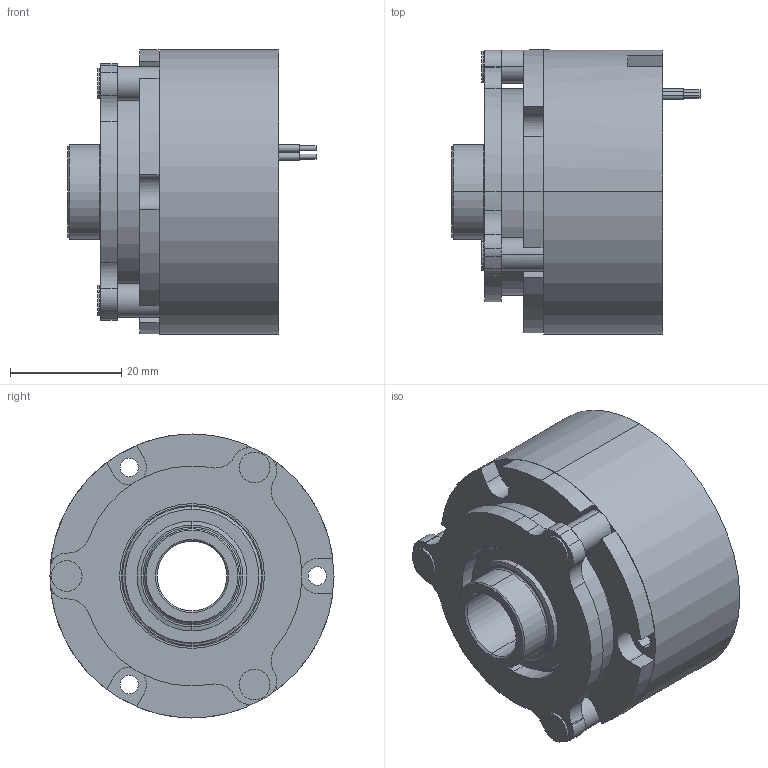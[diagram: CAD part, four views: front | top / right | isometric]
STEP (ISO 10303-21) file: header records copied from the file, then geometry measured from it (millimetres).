
FILE_DESCRIPTION (( 'STEP AP203' ), '1' );
FILE_NAME ('KS_10005A00_00472851.STEP', '2018-01-16T08:56:25', ( '' ), ( '' ), 'SwSTEP 2.0', 'SolidWorks 2015', '' );
FILE_SCHEMA (( 'CONFIG_CONTROL_DESIGN' ));
Length unit declared in the file: millimetre
Products named in the file (1): KS_10005A00_00472851
Bounding box: 44.54 x 51 x 51 mm (x, y, z)
Volume: 53832.5 mm3; surface area: 16495.9 mm2
Topology: 1 solids, 1 shells, 157 faces, 387 edges, 247 vertices
Faces by surface type: cylinder 92, plane 41, cone 20, torus 4
Entity records: 4780 total; most frequent: DIRECTION 905, CARTESIAN_POINT 786, ORIENTED_EDGE 762, EDGE_CURVE 381, AXIS2_PLACEMENT_3D 366, VERTEX_POINT 247, CIRCLE 208, EDGE_LOOP 192
